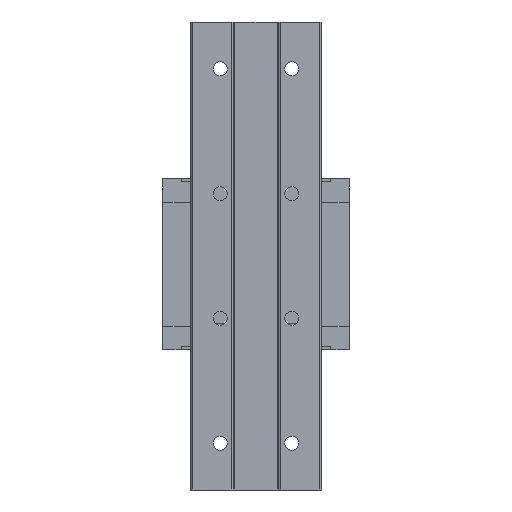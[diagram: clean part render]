
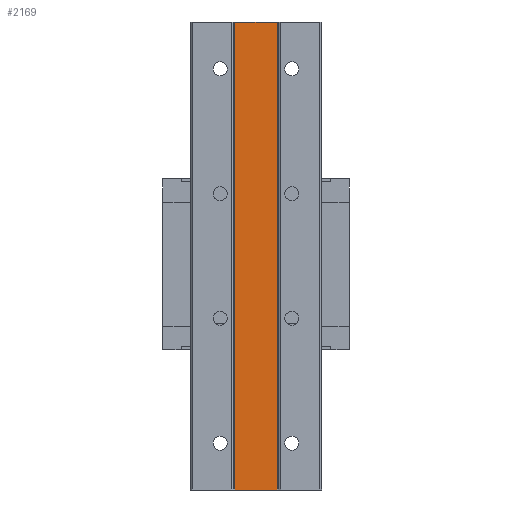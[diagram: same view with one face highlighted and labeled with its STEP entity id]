
A CAD part, front view. The second image highlights one B-rep face of the part: STEP entity #2169.
In plain terms, the highlighted planar face has unit normal (0, -1, 0).
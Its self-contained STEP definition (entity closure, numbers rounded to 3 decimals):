
#1984=CARTESIAN_POINT('',(-6.732,0.5,150.));
#1985=VERTEX_POINT('',#1984);
#1993=CARTESIAN_POINT('',(6.732,0.5,150.));
#1994=VERTEX_POINT('',#1993);
#1995=CARTESIAN_POINT('',(-6.732,0.5,150.));
#1996=DIRECTION('',(1.,0.,0.));
#1997=VECTOR('',#1996,13.464);
#1998=LINE('',#1995,#1997);
#1999=EDGE_CURVE('',#1985,#1994,#1998,.T.);
#2050=CARTESIAN_POINT('',(-6.732,0.5,0.));
#2051=VERTEX_POINT('',#2050);
#2101=CARTESIAN_POINT('',(6.732,0.5,0.));
#2102=VERTEX_POINT('',#2101);
#2110=CARTESIAN_POINT('',(6.732,0.5,0.));
#2111=DIRECTION('',(-1.,0.,0.));
#2112=VECTOR('',#2111,13.464);
#2113=LINE('',#2110,#2112);
#2114=EDGE_CURVE('',#2102,#2051,#2113,.T.);
#2144=CARTESIAN_POINT('',(-6.732,0.5,0.));
#2145=DIRECTION('',(0.,0.,1.));
#2146=VECTOR('',#2145,150.);
#2147=LINE('',#2144,#2146);
#2148=EDGE_CURVE('',#2051,#1985,#2147,.T.);
#2153=CARTESIAN_POINT('',(6.732,0.5,0.));
#2154=DIRECTION('',(-1.,0.,0.));
#2155=DIRECTION('',(0.,-1.,0.));
#2156=AXIS2_PLACEMENT_3D('',#2153,#2155,#2154);
#2157=PLANE('',#2156);
#2158=ORIENTED_EDGE('',*,*,#1999,.F.);
#2159=ORIENTED_EDGE('',*,*,#2148,.F.);
#2160=ORIENTED_EDGE('',*,*,#2114,.F.);
#2161=CARTESIAN_POINT('',(6.732,0.5,0.));
#2162=DIRECTION('',(0.,0.,1.));
#2163=VECTOR('',#2162,150.);
#2164=LINE('',#2161,#2163);
#2165=EDGE_CURVE('',#2102,#1994,#2164,.T.);
#2166=ORIENTED_EDGE('',*,*,#2165,.T.);
#2167=EDGE_LOOP('',(#2158,#2159,#2160,#2166));
#2168=FACE_OUTER_BOUND('',#2167,.T.);
#2169=ADVANCED_FACE('',(#2168),#2157,.T.);
